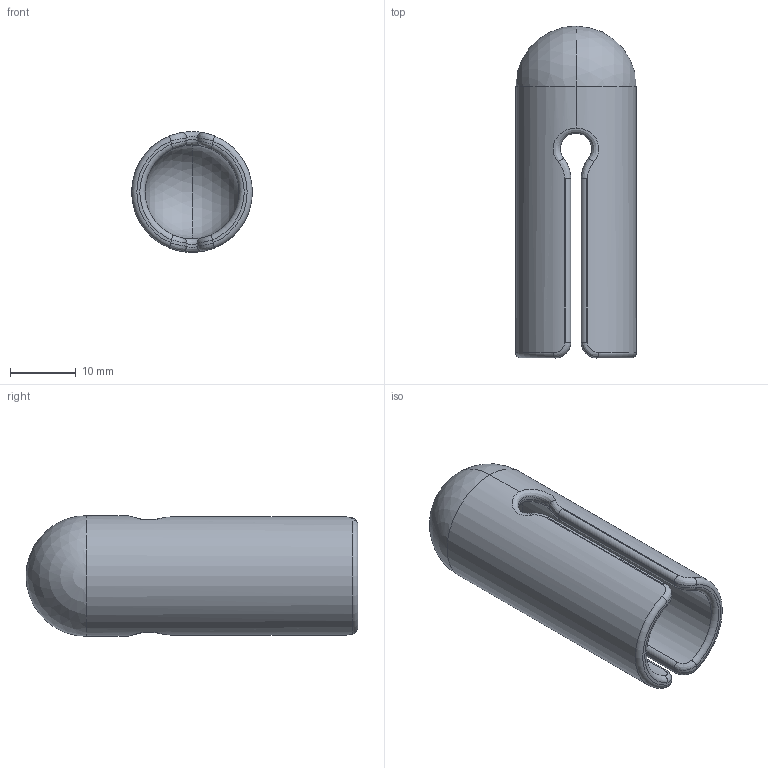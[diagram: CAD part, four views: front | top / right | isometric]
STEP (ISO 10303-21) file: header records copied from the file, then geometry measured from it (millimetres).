
FILE_DESCRIPTION (( 'STEP AP203' ), '1' );
FILE_NAME ('Finger splint Size 6.STEP', '2018-02-19T16:28:45', ( '' ), ( '' ), 'SwSTEP 2.0', 'SolidWorks 2015', '' );
FILE_SCHEMA (( 'CONFIG_CONTROL_DESIGN' ));
Length unit declared in the file: inch
Products named in the file (1): Finger splint Size 6
Bounding box: 18.35 x 50.45 x 18.35 mm (x, y, z)
Volume: 4823.8 mm3; surface area: 5060.3 mm2
Topology: 1 solids, 1 shells, 62 faces, 154 edges, 90 vertices
Faces by surface type: cylinder 28, bspline 20, plane 6, sphere 4, torus 4
Entity records: 3377 total; most frequent: CARTESIAN_POINT 2027, ORIENTED_EDGE 292, DIRECTION 232, EDGE_CURVE 146, AXIS2_PLACEMENT_3D 95, VERTEX_POINT 86, EDGE_LOOP 62, FACE_OUTER_BOUND 62
